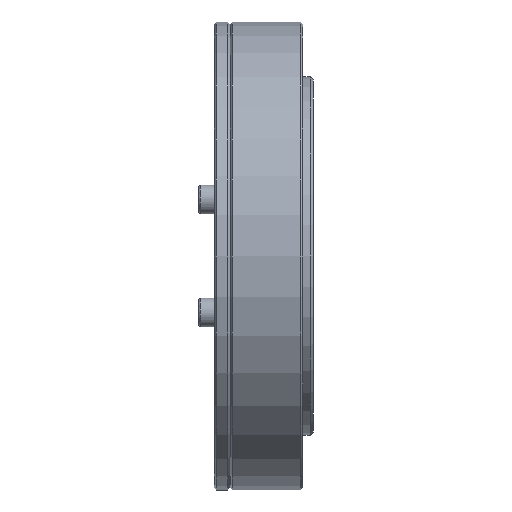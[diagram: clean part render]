
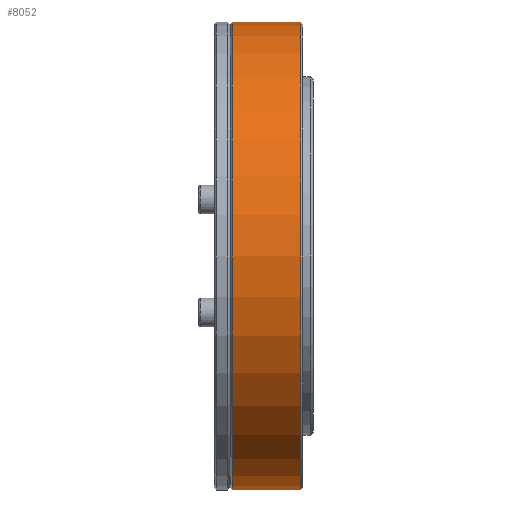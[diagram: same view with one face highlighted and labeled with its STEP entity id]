
A CAD part, front view. The second image highlights one B-rep face of the part: STEP entity #8052.
In plain terms, the highlighted cylindrical face has radius 45 mm (diameter 90 mm), a full revolution.
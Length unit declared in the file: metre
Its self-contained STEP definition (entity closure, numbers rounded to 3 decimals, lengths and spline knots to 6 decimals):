
#325 = EDGE_LOOP ( 'NONE', ( #1388 ) ) ;
#717 = CYLINDRICAL_SURFACE ( 'NONE', #3531, 0.045 ) ;
#765 = EDGE_CURVE ( 'NONE', #4674, #4674, #5765, .T. ) ;
#931 = CARTESIAN_POINT ( 'NONE',  ( -0.0148, 0., 0. ) ) ;
#1388 = ORIENTED_EDGE ( 'NONE', *, *, #19347, .T. ) ;
#3051 = DIRECTION ( 'NONE',  ( 0., -1., 0. ) ) ;
#3190 = AXIS2_PLACEMENT_3D ( 'NONE', #19255, #14444, #3051 ) ;
#3531 = AXIS2_PLACEMENT_3D ( 'NONE', #931, #20015, #5744 ) ;
#3696 = CARTESIAN_POINT ( 'NONE',  ( -0.0144, 0., 0. ) ) ;
#4674 = VERTEX_POINT ( 'NONE', #11239 ) ;
#5219 = DIRECTION ( 'NONE',  ( 1., 0., 0. ) ) ;
#5744 = DIRECTION ( 'NONE',  ( 0., -1., 0. ) ) ;
#5765 = CIRCLE ( 'NONE', #12633, 0.045 ) ;
#6103 = CARTESIAN_POINT ( 'NONE',  ( -0.0012, -0.045, 0. ) ) ;
#8052 = ADVANCED_FACE ( 'NONE', ( #15620, #10588 ), #717, .T. ) ;
#9367 = CIRCLE ( 'NONE', #3190, 0.045 ) ;
#10062 = DIRECTION ( 'NONE',  ( 0., -1., 0. ) ) ;
#10588 = FACE_OUTER_BOUND ( 'NONE', #19666, .T. ) ;
#11239 = CARTESIAN_POINT ( 'NONE',  ( -0.0144, -0.045, 0. ) ) ;
#12633 = AXIS2_PLACEMENT_3D ( 'NONE', #3696, #5219, #10062 ) ;
#14444 = DIRECTION ( 'NONE',  ( -1., 0., 0. ) ) ;
#15620 = FACE_OUTER_BOUND ( 'NONE', #325, .T. ) ;
#16996 = ORIENTED_EDGE ( 'NONE', *, *, #765, .T. ) ;
#19255 = CARTESIAN_POINT ( 'NONE',  ( -0.0012, 0., 0. ) ) ;
#19347 = EDGE_CURVE ( 'NONE', #20587, #20587, #9367, .T. ) ;
#19666 = EDGE_LOOP ( 'NONE', ( #16996 ) ) ;
#20015 = DIRECTION ( 'NONE',  ( -1., 0., 0. ) ) ;
#20587 = VERTEX_POINT ( 'NONE', #6103 ) ;
